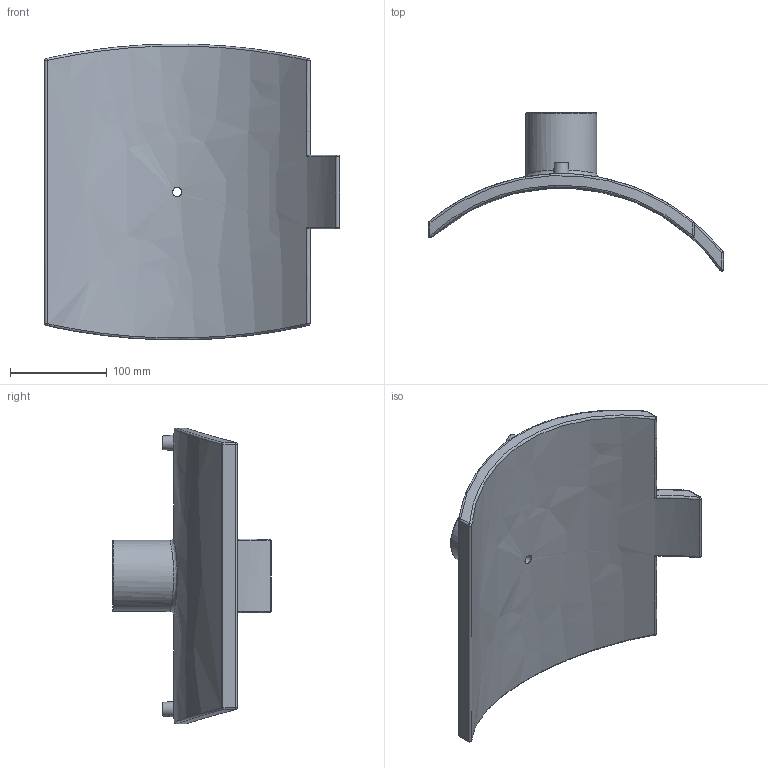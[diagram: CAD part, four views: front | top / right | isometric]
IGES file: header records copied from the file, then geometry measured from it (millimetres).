
Global section: file name: 493804400020; native system: Autodesk Inventor 2019; preprocessor: unknown; author: KIM; date: 20210905.105126; units: millimetre
Bounding box: 305 x 163.54 x 305.93 mm (x, y, z)
Volume: 1405820.1 mm3; surface area: 229353.6 mm2
Topology: 1 solids, 1 shells, 68 faces, 139 edges, 83 vertices
Faces by surface type: bspline 68
